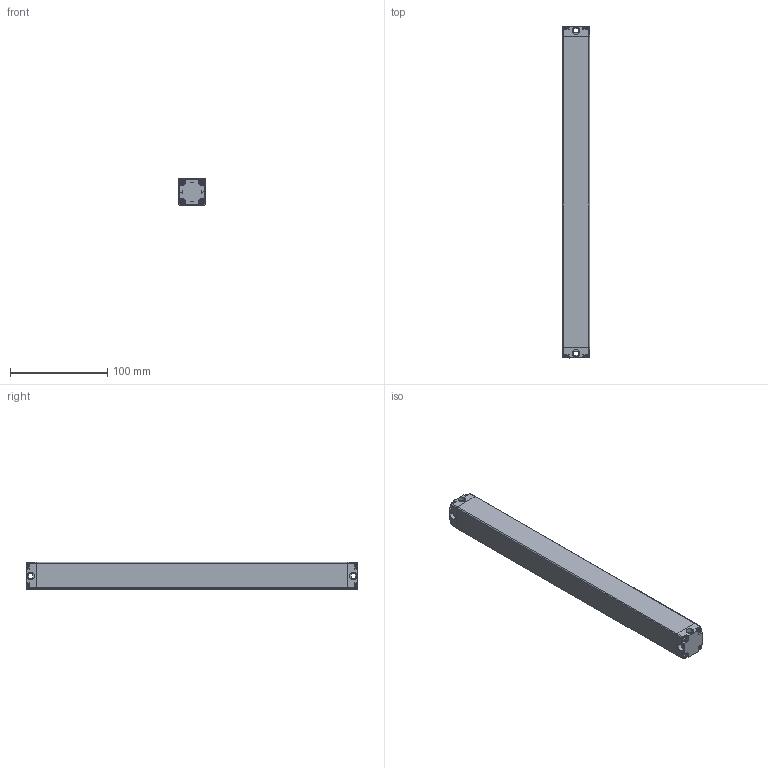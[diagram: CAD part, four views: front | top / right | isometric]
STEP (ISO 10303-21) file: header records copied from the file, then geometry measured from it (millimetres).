
FILE_DESCRIPTION((''),'2;1');
FILE_NAME('ELD00_ASM','2021-07-20T09:24:06',('18720616900'),(''),'CREO PARAMETRIC BY PTC INC, 2019010','CREO PARAMETRIC BY PTC INC, 2019010','');
FILE_SCHEMA(('CONFIG_CONTROL_DESIGN'));
Length unit declared in the file: millimetre
Products named in the file (6): ELD--00; ELD--000; ST-3-12; ELD00_ASM
Assembly tree (12 placements, depth 2):
  ELD00_ASM
    ELD--00
    ELD--000
    ELD--000
    ELD--000
    ST-3-12  x8
Bounding box: 28 x 342 x 28 mm (x, y, z)
Volume: 263885.6 mm3; surface area: 60829.4 mm2
Topology: 12 solids, 12 shells, 792 faces, 2082 edges, 1296 vertices
Faces by surface type: plane 236, cone 172, bspline 168, cylinder 156, torus 44, sphere 16
Entity records: 14414 total; most frequent: CARTESIAN_POINT 6863, ORIENTED_EDGE 1584, DIRECTION 1469, EDGE_CURVE 792, AXIS2_PLACEMENT_3D 520, VERTEX_POINT 491, VECTOR 429, LINE 429
